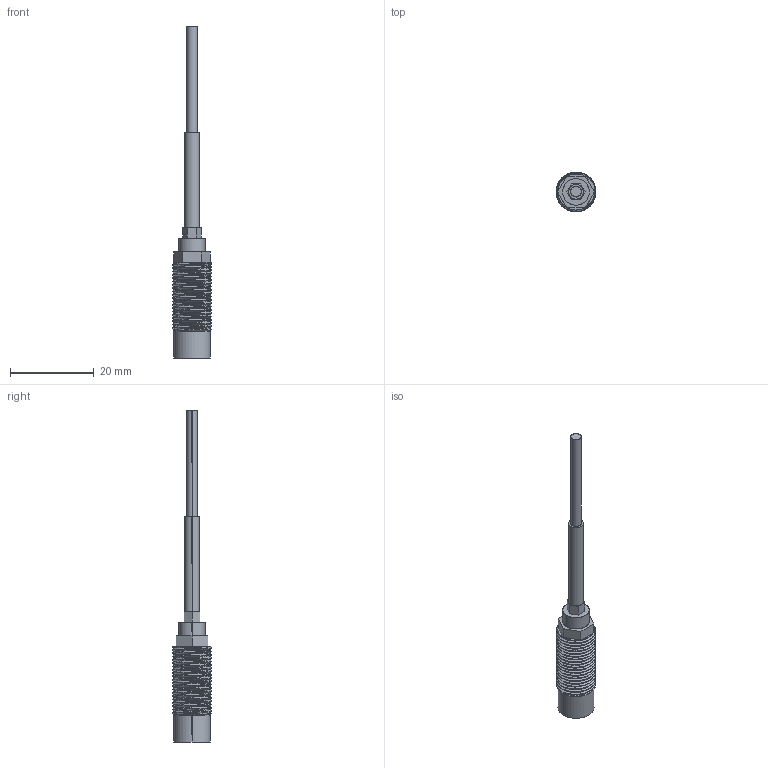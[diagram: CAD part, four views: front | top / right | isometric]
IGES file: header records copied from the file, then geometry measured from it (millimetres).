
Start section: SolidWorks IGES file using analytic representation for surfaces
Global section: file name: C:\Documents and Settings\Administrator\My Documents\EDI\3D\finished sensors\9U.IGS; native system: SolidWorks 2008; preprocessor: SolidWorks 2008; author: Administrator; date: 100304.194421; units: inch
Bounding box: 9.53 x 9.53 x 79.5 mm (x, y, z)
Surface area: 1682.6 mm2 (no closed solid volume)
Topology: 0 solids, 0 shells, 78 faces, 1353 edges, 1353 vertices
Faces by surface type: revolution 52, bspline 26
